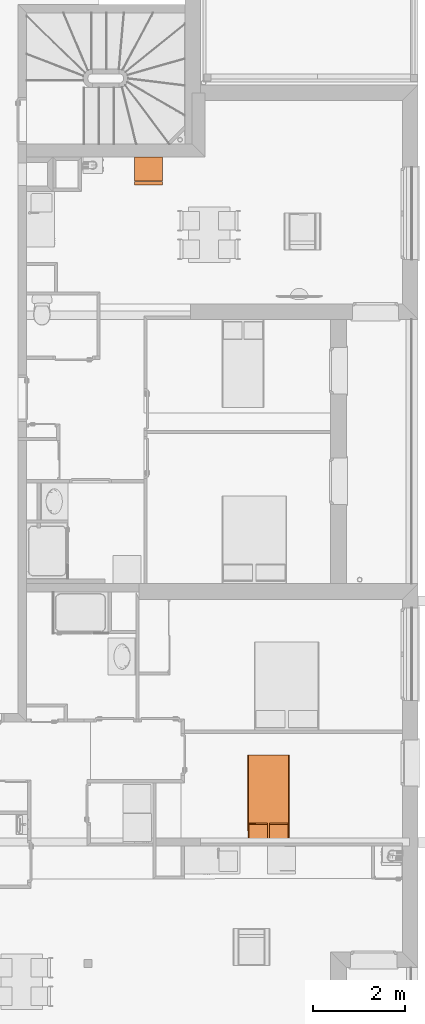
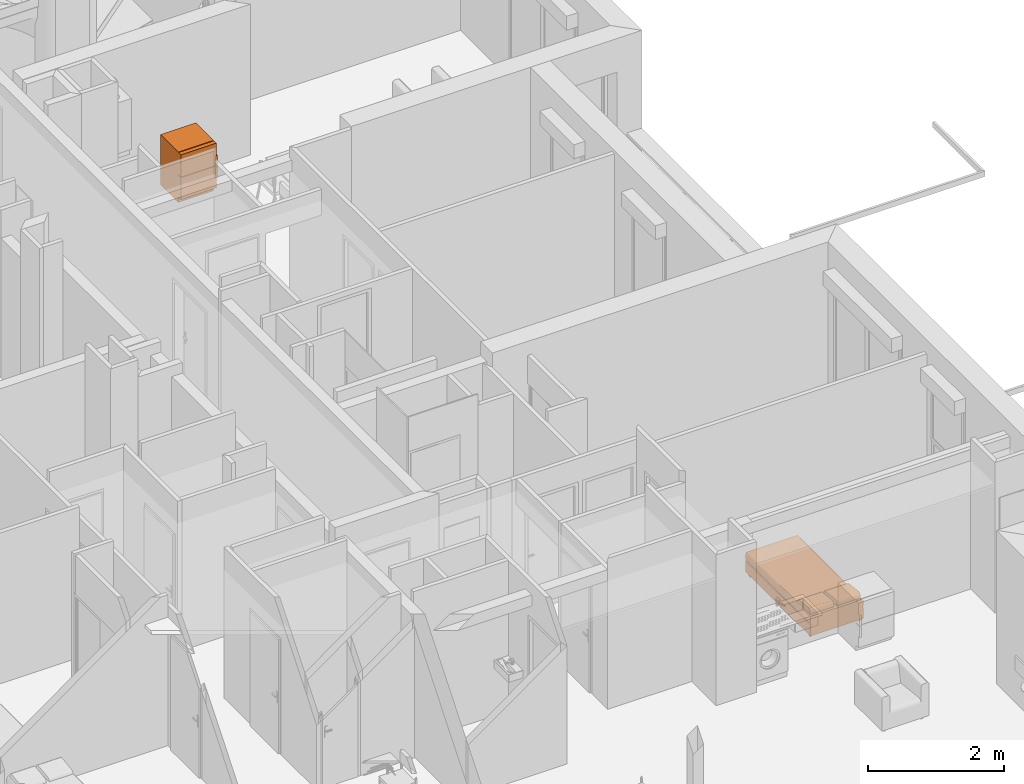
# One storey, part 153 of 171: 2 proxies.
"""IFC2X3 building model written with IfcOpenShell, lengths in millimetres."""

from ifc_helpers import new_model, entity, si_unit, converted_unit, derived_unit, money_unit, direction, frame, origin_with_axes, place, context, subcontext, project, spatial, open_shell, faceted_brep, surface_model, source, transform, mapped, type_object, element, save


model = new_model("IFC2X3")

# Units and contexts
model_context = context("Model", 3, precision=0.01, world=origin_with_axes(), true_north=direction((0.0, 1.0)))
body_context = subcontext(model_context, "Body", "Model", "MODEL_VIEW")
ifc_project = project(units=[si_unit("LENGTHUNIT", "METRE", prefix="MILLI"), si_unit("AREAUNIT", "SQUARE_METRE"), si_unit("VOLUMEUNIT", "CUBIC_METRE"), converted_unit("PLANEANGLEUNIT", "DEGREE", entity("IfcPlaneAngleMeasure", 0.0174532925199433), si_unit("PLANEANGLEUNIT", "RADIAN"), dimensions=[0, 0, 0, 0, 0, 0, 0]), money_unit("USD"), converted_unit("TIMEUNIT", "Year", entity("IfcTimeMeasure", 31557600.0), si_unit("TIMEUNIT", "SECOND"), dimensions=[0, 0, 1, 0, 0, 0, 0]), si_unit("MASSUNIT", "GRAM", prefix="KILO"), si_unit("THERMODYNAMICTEMPERATUREUNIT", "DEGREE_CELSIUS"), si_unit("LUMINOUSINTENSITYUNIT", "LUMEN"), si_unit("ENERGYUNIT", "JOULE", prefix="MEGA"), derived_unit("THERMALCONDUCTANCEUNIT", [(si_unit("POWERUNIT", "WATT"), 1), (si_unit("LENGTHUNIT", "METRE"), -1), (si_unit("THERMODYNAMICTEMPERATUREUNIT", "KELVIN"), -1)]), derived_unit("SPECIFICHEATCAPACITYUNIT", [(si_unit("ENERGYUNIT", "JOULE"), 1), (si_unit("MASSUNIT", "GRAM", prefix="KILO"), -1), (si_unit("THERMODYNAMICTEMPERATUREUNIT", "KELVIN"), -1)]), derived_unit("MASSDENSITYUNIT", [(si_unit("MASSUNIT", "GRAM", prefix="KILO"), 1), (si_unit("VOLUMEUNIT", "CUBIC_METRE"), -1)])], contexts=[model_context])

# Site, building, storey
site_placement = place(None, origin_with_axes())
site = spatial("IfcSite", under=ifc_project, at=site_placement, Name="Site", CompositionType="ELEMENT")
building_placement = place(site_placement, origin_with_axes())
building = spatial("IfcBuilding", under=site, at=building_placement, Name="Bâtiment", CompositionType="ELEMENT")
storey_placement = place(building_placement, frame((0.0, 0.0, 3000.0), z_axis=(0.0, 0.0, 1.0), x_axis=(1.0, 0.0, 0.0)))
storey = spatial("IfcBuildingStorey", under=building, at=storey_placement, Name="rdc", CompositionType="ELEMENT", Elevation=3000.0)

# Proxies
building_element_proxy_type = type_object("IfcBuildingElementProxyType", PredefinedType="NOTDEFINED")
shared_shape_1 = source(origin_with_axes(), body_context, "Body", "SurfaceModel", [
    faceted_brep([(-400.0, -95.0, 0.0), (-425.0000000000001, -95.0, 0.0), (-425.0000000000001, -47.5, 0.0), (-400.0, -47.5, 0.0), (-400.0, -95.0, 50.0), (-425.0000000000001, -95.0, 50.0), (-425.0000000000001, -47.5, 50.0), (-400.0, -47.5, 50.0)], [[[0, 1, 2, 3]], [[1, 0, 4, 5]], [[2, 1, 5, 6]], [[3, 2, 6, 7]], [[0, 3, 7, 4]], [[5, 4, 7, 6]]]),
    faceted_brep([(-400.0, -1852.5, 0.0), (-425.0000000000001, -1852.5, 0.0), (-425.0000000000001, -1805.0, 0.0), (-400.0, -1805.0, 0.0), (-400.0, -1852.5, 50.0), (-425.0000000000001, -1852.5, 50.0), (-425.0000000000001, -1805.0, 50.0), (-400.0, -1805.0, 50.0)], [[[0, 1, 2, 3]], [[1, 0, 4, 5]], [[2, 1, 5, 6]], [[3, 2, 6, 7]], [[0, 3, 7, 4]], [[5, 4, 7, 6]]]),
    faceted_brep([(425.0000000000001, -1852.5, 0.0), (400.0, -1852.5, 0.0), (400.0, -1805.0, 0.0), (425.0000000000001, -1805.0, 0.0), (425.0000000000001, -1852.5, 50.0), (400.0, -1852.5, 50.0), (400.0, -1805.0, 50.0), (425.0000000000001, -1805.0, 50.0)], [[[0, 1, 2, 3]], [[1, 0, 4, 5]], [[2, 1, 5, 6]], [[3, 2, 6, 7]], [[0, 3, 7, 4]], [[5, 4, 7, 6]]]),
    faceted_brep([(425.0000000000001, -94.99999999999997, 0.0), (400.0, -94.99999999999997, 0.0), (400.0, -47.49999999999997, 0.0), (425.0000000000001, -47.49999999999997, 0.0), (425.0000000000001, -94.99999999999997, 50.0), (400.0, -94.99999999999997, 50.0), (400.0, -47.49999999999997, 50.0), (425.0000000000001, -47.49999999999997, 50.0)], [[[0, 1, 2, 3]], [[1, 0, 4, 5]], [[2, 1, 5, 6]], [[3, 2, 6, 7]], [[0, 3, 7, 4]], [[5, 4, 7, 6]]]),
    faceted_brep([(-450.0, 0.0, 50.0), (450.0, 0.0, 50.0), (450.0, -1900.0, 50.00000000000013), (-450.0, -1900.0, 50.00000000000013), (-450.0, 0.0, 250.0), (450.0, 0.0, 250.0), (450.0, -1900.0, 250.0000000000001), (-450.0, -1900.0, 250.0000000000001)], [[[0, 1, 2, 3]], [[0, 4, 5, 1]], [[1, 5, 6, 2]], [[3, 2, 6, 7]], [[4, 0, 3, 7]], [[5, 4, 7, 6]]]),
    surface_model("IfcShellBasedSurfaceModel", [(425.0000000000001, 0.0, 250.0), (429.3412044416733, 0.0, 250.7596123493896), (429.3412044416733, -1900.0, 250.7596123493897), (425.0000000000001, -1900.0, 250.0000000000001), (-425.0000000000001, 0.0, 250.0), (-429.3412044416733, 0.0, 250.7596123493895), (-433.5505035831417, 0.0, 253.0153689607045), (-437.5, 0.0, 256.698729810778), (-441.0696902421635, 0.0, 261.6977778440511), (-444.1511110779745, 0.0, 267.860619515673), (-446.650635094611, 0.0, 275.0), (-448.4923155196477, 0.0, 282.8989928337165), (-449.6201938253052, 0.0, 291.3175911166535), (-450.0, 0.0, 300.0000000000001), (-450.0000000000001, 0.0, 350.0), (-449.6201938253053, 0.0, 358.6824088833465), (-448.4923155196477, 0.0, 367.1010071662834), (-446.650635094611, 0.0, 375.0), (-444.1511110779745, 0.0, 382.139380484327), (-441.0696902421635, 0.0, 388.3022221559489), (-437.5000000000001, 0.0, 393.301270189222), (-433.5505035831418, 0.0, 396.9846310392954), (-429.3412044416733, 0.0, 399.2403876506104), (-425.0000000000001, 0.0, 400.0), (425.0, 0.0, 400.0000000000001), (429.3412044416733, 0.0, 399.2403876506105), (433.5505035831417, 0.0, 396.9846310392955), (437.5, 0.0, 393.301270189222), (441.0696902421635, 0.0, 388.3022221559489), (444.1511110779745, 0.0, 382.139380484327), (446.6506350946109, 0.0, 375.0000000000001), (448.4923155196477, 0.0, 367.1010071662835), (449.6201938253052, 0.0, 358.6824088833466), (450.0, 0.0, 350.0000000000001), (450.0, 0.0, 300.0000000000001), (449.6201938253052, 0.0, 291.3175911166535), (448.4923155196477, 0.0, 282.8989928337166), (446.650635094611, 0.0, 275.0), (444.1511110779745, 0.0, 267.8606195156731), (441.0696902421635, 0.0, 261.6977778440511), (437.5000000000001, 0.0, 256.698729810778), (433.5505035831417, 0.0, 253.0153689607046), (433.5505035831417, -1900.0, 253.0153689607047), (-425.0000000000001, -1900.0, 250.0000000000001), (437.5000000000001, -1900.0, 256.6987298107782), (441.0696902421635, -1900.0, 261.6977778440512), (444.1511110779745, -1900.0, 267.8606195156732), (446.650635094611, -1900.0, 275.0000000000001), (448.4923155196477, -1900.0, 282.8989928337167), (449.6201938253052, -1900.0, 291.3175911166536), (450.0, -1900.0, 300.0000000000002), (450.0, -1900.0, 350.0000000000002), (449.6201938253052, -1900.0, 358.6824088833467), (448.4923155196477, -1900.0, 367.1010071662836), (446.6506350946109, -1900.0, 375.0000000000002), (444.1511110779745, -1900.0, 382.1393804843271), (441.0696902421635, -1900.0, 388.302222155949), (437.5, -1900.0, 393.3012701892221), (433.5505035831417, -1900.0, 396.9846310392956), (429.3412044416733, -1900.0, 399.2403876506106), (425.0, -1900.0, 400.0000000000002), (-425.0000000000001, -1900.0, 400.0000000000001), (-429.3412044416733, -1900.0, 399.2403876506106), (-433.5505035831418, -1900.0, 396.9846310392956), (-437.5000000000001, -1900.0, 393.3012701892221), (-441.0696902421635, -1900.0, 388.302222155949), (-444.1511110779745, -1900.0, 382.1393804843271), (-446.650635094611, -1900.0, 375.0000000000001), (-448.4923155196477, -1900.0, 367.1010071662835), (-449.6201938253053, -1900.0, 358.6824088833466), (-450.0000000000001, -1900.0, 350.0000000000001), (-450.0, -1900.0, 300.0000000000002), (-449.6201938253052, -1900.0, 291.3175911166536), (-448.4923155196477, -1900.0, 282.8989928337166), (-446.650635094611, -1900.0, 275.0000000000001), (-444.1511110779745, -1900.0, 267.8606195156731), (-441.0696902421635, -1900.0, 261.6977778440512), (-437.5, -1900.0, 256.6987298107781), (-433.5505035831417, -1900.0, 253.0153689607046), (-429.3412044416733, -1900.0, 250.7596123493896)], [open_shell([[[0, 1, 2, 3]], [[4, 5, 6, 7, 8, 9, 10, 11, 12, 13, 14, 15, 16, 17, 18, 19, 20, 21, 22, 23, 24, 25, 26, 27, 28, 29, 30, 31, 32, 33, 34, 35, 36, 37, 38, 39, 40, 41, 1, 0]], [[1, 41, 42, 2]], [[43, 3, 2, 42, 44, 45, 46, 47, 48, 49, 50, 51, 52, 53, 54, 55, 56, 57, 58, 59, 60, 61, 62, 63, 64, 65, 66, 67, 68, 69, 70, 71, 72, 73, 74, 75, 76, 77, 78, 79]], [[5, 4, 43, 79]], [[6, 5, 79, 78]], [[7, 6, 78, 77]], [[8, 7, 77, 76]], [[9, 8, 76, 75]], [[10, 9, 75, 74]], [[11, 10, 74, 73]], [[12, 11, 73, 72]], [[13, 12, 72, 71]], [[14, 13, 71, 70]], [[15, 14, 70, 69]], [[16, 15, 69, 68]], [[17, 16, 68, 67]], [[18, 17, 67, 66]], [[19, 18, 66, 65]], [[20, 19, 65, 64]], [[21, 20, 64, 63]], [[22, 21, 63, 62]], [[23, 22, 62, 61]], [[24, 23, 61, 60]], [[25, 24, 60, 59]], [[26, 25, 59, 58]], [[27, 26, 58, 57]], [[28, 27, 57, 56]], [[29, 28, 56, 55]], [[30, 29, 55, 54]], [[31, 30, 54, 53]], [[32, 31, 53, 52]], [[33, 32, 52, 51]], [[34, 33, 51, 50]], [[35, 34, 50, 49]], [[36, 35, 49, 48]], [[37, 36, 48, 47]], [[38, 37, 47, 46]], [[39, 38, 46, 45]], [[40, 39, 45, 44]], [[41, 40, 44, 42]]])]),
    faceted_brep([(24.99999999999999, -47.49999999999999, 400.0), (24.99999999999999, -47.49999999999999, 443.4), (425.0, -47.50000000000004, 443.4000000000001), (425.0, -47.50000000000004, 400.0000000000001), (24.99999999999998, -427.5, 400.0), (24.99999999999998, -427.6960812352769, 408.695442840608), (24.99999999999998, -426.4675711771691, 417.2966661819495), (24.99999999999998, -423.8511300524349, 425.5469991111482), (24.99999999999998, -419.9248356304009, 433.2002417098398), (24.99999999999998, -414.8058532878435, 440.0280119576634), (24.99999999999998, -408.6469396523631, 445.826560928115), (24.99999999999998, -401.6318841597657, 450.4228529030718), (24.99999999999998, -393.9700245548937, 453.6797289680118), (24.99999999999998, -385.89, 455.5), (24.99999999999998, -100.89, 493.0000000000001), (24.99999999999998, -92.85488048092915, 493.3370808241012), (24.99999999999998, -84.88093291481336, 492.2422169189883), (24.99999999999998, -77.19681007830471, 489.7468034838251), (24.99999999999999, -70.02285403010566, 485.922396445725), (24.99999999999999, -63.56477780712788, 480.878660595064), (24.99999999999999, -58.00776660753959, 474.7602249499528), (24.99999999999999, -53.51116760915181, 467.7425355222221), (24.99999999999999, -50.20392069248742, 460.0268244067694), (24.99999999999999, -48.18086109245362, 451.834339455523), (425.0, -48.18086109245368, 451.8343394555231), (425.0, -50.20392069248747, 460.0268244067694), (425.0, -53.51116760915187, 467.7425355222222), (425.0, -58.00776660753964, 474.7602249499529), (425.0, -63.56477780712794, 480.878660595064), (425.0, -70.02285403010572, 485.922396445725), (425.0, -77.19681007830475, 489.7468034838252), (425.0, -84.88093291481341, 492.2422169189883), (425.0, -92.85488048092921, 493.3370808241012), (425.0, -100.8900000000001, 493.0000000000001), (425.0, -385.89, 455.5000000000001), (425.0, -393.9700245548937, 453.6797289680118), (425.0, -401.6318841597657, 450.4228529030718), (425.0, -408.6469396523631, 445.826560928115), (425.0, -414.8058532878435, 440.0280119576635), (425.0, -419.924835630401, 433.2002417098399), (425.0, -423.8511300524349, 425.5469991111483), (425.0, -426.4675711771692, 417.2966661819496), (425.0, -427.6960812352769, 408.6954428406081), (425.0, -427.5, 400.0000000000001)], [[[0, 1, 2, 3]], [[0, 4, 5, 6, 7, 8, 9, 10, 11, 12, 13, 14, 15, 16, 17, 18, 19, 20, 21, 22, 23, 1]], [[1, 23, 24, 2]], [[3, 2, 24, 25, 26, 27, 28, 29, 30, 31, 32, 33, 34, 35, 36, 37, 38, 39, 40, 41, 42, 43]], [[4, 0, 3, 43]], [[5, 4, 43, 42]], [[6, 5, 42, 41]], [[7, 6, 41, 40]], [[8, 7, 40, 39]], [[9, 8, 39, 38]], [[10, 9, 38, 37]], [[11, 10, 37, 36]], [[12, 11, 36, 35]], [[13, 12, 35, 34]], [[14, 13, 34, 33]], [[15, 14, 33, 32]], [[16, 15, 32, 31]], [[17, 16, 31, 30]], [[18, 17, 30, 29]], [[19, 18, 29, 28]], [[20, 19, 28, 27]], [[21, 20, 27, 26]], [[22, 21, 26, 25]], [[23, 22, 25, 24]]]),
    faceted_brep([(-425.0000000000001, -47.49999999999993, 399.9999999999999), (-425.0000000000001, -47.49999999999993, 443.4), (-25.00000000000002, -47.49999999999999, 443.4), (-25.00000000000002, -47.49999999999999, 400.0), (-425.0000000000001, -427.4999999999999, 399.9999999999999), (-425.0000000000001, -427.6960812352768, 408.6954428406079), (-425.0000000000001, -426.4675711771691, 417.2966661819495), (-425.0000000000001, -423.8511300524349, 425.5469991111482), (-425.0000000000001, -419.9248356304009, 433.2002417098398), (-425.0000000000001, -414.8058532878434, 440.0280119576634), (-425.0000000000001, -408.646939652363, 445.8265609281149), (-425.0000000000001, -401.6318841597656, 450.4228529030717), (-425.0000000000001, -393.9700245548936, 453.6797289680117), (-425.0000000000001, -385.8899999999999, 455.4999999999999), (-425.0000000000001, -100.89, 493.0), (-425.0000000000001, -92.8548804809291, 493.3370808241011), (-425.0000000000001, -84.8809329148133, 492.2422169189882), (-425.0000000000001, -77.19681007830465, 489.7468034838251), (-425.0000000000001, -70.0228540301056, 485.9223964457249), (-425.0000000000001, -63.56477780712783, 480.8786605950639), (-425.0000000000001, -58.00776660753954, 474.7602249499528), (-425.0000000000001, -53.51116760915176, 467.7425355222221), (-425.0000000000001, -50.20392069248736, 460.0268244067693), (-425.0000000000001, -48.18086109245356, 451.834339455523), (-25.00000000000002, -48.18086109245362, 451.834339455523), (-25.00000000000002, -50.20392069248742, 460.0268244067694), (-25.00000000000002, -53.51116760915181, 467.7425355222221), (-25.00000000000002, -58.00776660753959, 474.7602249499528), (-25.00000000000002, -63.56477780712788, 480.878660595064), (-25.00000000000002, -70.02285403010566, 485.922396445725), (-25.00000000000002, -77.19681007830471, 489.7468034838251), (-25.00000000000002, -84.88093291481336, 492.2422169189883), (-25.00000000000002, -92.85488048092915, 493.3370808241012), (-25.00000000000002, -100.89, 493.0000000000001), (-25.00000000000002, -385.8899999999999, 455.5), (-25.00000000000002, -393.9700245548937, 453.6797289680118), (-25.00000000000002, -401.6318841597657, 450.4228529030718), (-25.00000000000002, -408.6469396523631, 445.826560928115), (-25.00000000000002, -414.8058532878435, 440.0280119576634), (-25.00000000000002, -419.9248356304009, 433.2002417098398), (-25.00000000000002, -423.8511300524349, 425.5469991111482), (-25.00000000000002, -426.4675711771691, 417.2966661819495), (-25.00000000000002, -427.6960812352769, 408.695442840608), (-25.00000000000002, -427.4999999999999, 400.0)], [[[0, 1, 2, 3]], [[0, 4, 5, 6, 7, 8, 9, 10, 11, 12, 13, 14, 15, 16, 17, 18, 19, 20, 21, 22, 23, 1]], [[1, 23, 24, 2]], [[3, 2, 24, 25, 26, 27, 28, 29, 30, 31, 32, 33, 34, 35, 36, 37, 38, 39, 40, 41, 42, 43]], [[4, 0, 3, 43]], [[5, 4, 43, 42]], [[6, 5, 42, 41]], [[7, 6, 41, 40]], [[8, 7, 40, 39]], [[9, 8, 39, 38]], [[10, 9, 38, 37]], [[11, 10, 37, 36]], [[12, 11, 36, 35]], [[13, 12, 35, 34]], [[14, 13, 34, 33]], [[15, 14, 33, 32]], [[16, 15, 32, 31]], [[17, 16, 31, 30]], [[18, 17, 30, 29]], [[19, 18, 29, 28]], [[20, 19, 28, 27]], [[21, 20, 27, 26]], [[22, 21, 26, 25]], [[23, 22, 25, 24]]]),
])
proxy_1_placement = place(storey_placement, frame((2231125.570279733, -652341.7887185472, 0.0), z_axis=(0.0, 0.0, 1.0), x_axis=(-0.9999998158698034, -0.0006068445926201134, 0.0)))
element("IfcBuildingElementProxy", 1, at=proxy_1_placement, inside=storey, type_object=building_element_proxy_type, Name="Obj.-003", context=body_context, shape_type="MappedRepresentation", body=[
    mapped(shared_shape_1, transform((0.0, 0.0, 0.0))),
])
shared_shape_2 = source(origin_with_axes(), body_context, "Body", "SurfaceModel", [
    faceted_brep([(0.0, 80.0, 100.0), (600.0, 80.0, 100.0), (600.0, 80.0, 900.0), (0.0, 80.0, 900.0), (0.0, 600.0, 100.0), (600.0, 600.0, 100.0), (600.0, 600.0, 900.0), (0.0, 600.0, 900.0)], [[[0, 1, 2, 3]], [[0, 4, 5, 1]], [[1, 5, 6, 2]], [[3, 2, 6, 7]], [[4, 0, 3, 7]], [[5, 4, 7, 6]]]),
    faceted_brep([(0.0, 80.0, 0.0), (600.0, 80.0, 0.0), (600.0, 80.0, 100.0), (0.0, 80.0, 100.0), (0.0, 600.0, 0.0), (600.0, 600.0, 0.0), (600.0, 600.0, 100.0), (0.0, 600.0, 100.0)], [[[0, 1, 2, 3]], [[0, 4, 5, 1]], [[1, 5, 6, 2]], [[3, 2, 6, 7]], [[4, 0, 3, 7]], [[5, 4, 7, 6]]]),
    faceted_brep([(0.0, 70.0, 100.0), (600.0, 70.0, 100.0), (600.0, 0.0, 100.0), (0.0, 0.0, 100.0), (0.0, 70.00000000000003, 494.0), (600.0, 70.00000000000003, 494.0), (600.0, 0.0, 494.0), (0.0, 0.0, 494.0)], [[[0, 1, 2, 3]], [[0, 4, 5, 1]], [[1, 5, 6, 2]], [[3, 2, 6, 7]], [[4, 0, 3, 7]], [[5, 4, 7, 6]]]),
    faceted_brep([(0.0, 70.0, 500.0), (600.0, 70.0, 500.0), (600.0, 0.0, 500.0), (0.0, 0.0, 500.0), (0.0, 70.00000000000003, 900.0), (600.0, 70.00000000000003, 900.0), (600.0, 0.0, 900.0), (0.0, 0.0, 900.0)], [[[0, 1, 2, 3]], [[0, 4, 5, 1]], [[1, 5, 6, 2]], [[3, 2, 6, 7]], [[4, 0, 3, 7]], [[5, 4, 7, 6]]]),
    surface_model("IfcShellBasedSurfaceModel", [(600.0, -30.0, 300.0000000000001), (600.0, -30.0, 494.0000000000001), (600.0, 0.0, 494.0000000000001), (600.0, 0.0, 300.0000000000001)], [open_shell([[[0, 1, 2, 3]]])]),
    surface_model("IfcShellBasedSurfaceModel", [(600.0, -30.0, 300.0000000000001), (600.0, -30.0, 494.0000000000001), (570.0, -30.0, 494.0000000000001), (570.0, -30.0, 300.0000000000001)], [open_shell([[[0, 1, 2, 3]]])]),
    surface_model("IfcShellBasedSurfaceModel", [(600.0, -30.0, 500.0), (600.0, -30.0, 700.0), (600.0, 0.0, 700.0), (600.0, 0.0, 500.0)], [open_shell([[[0, 1, 2, 3]]])]),
    surface_model("IfcShellBasedSurfaceModel", [(600.0, -30.0, 500.0), (600.0, -30.0, 700.0), (570.0, -30.0, 700.0), (570.0, -30.0, 500.0)], [open_shell([[[0, 1, 2, 3]]])]),
])
proxy_2_placement = place(storey_placement, frame((2228229.231126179, -638114.9923134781, 0.0), z_axis=(0.0, 0.0, 1.0), x_axis=(0.9999998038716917, -0.0006263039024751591, 0.0)))
element("IfcBuildingElementProxy", 2, at=proxy_2_placement, inside=storey, type_object=building_element_proxy_type, Name="Obj.-019", context=body_context, shape_type="MappedRepresentation", body=[
    mapped(shared_shape_2, transform((0.0, 0.0, 0.0))),
])

save(model, "model.ifc")
